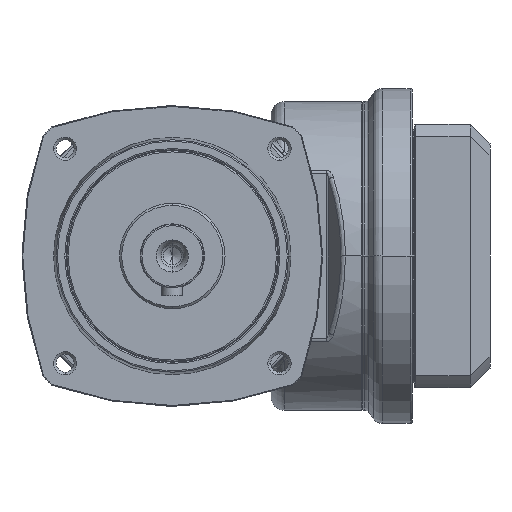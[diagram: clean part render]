
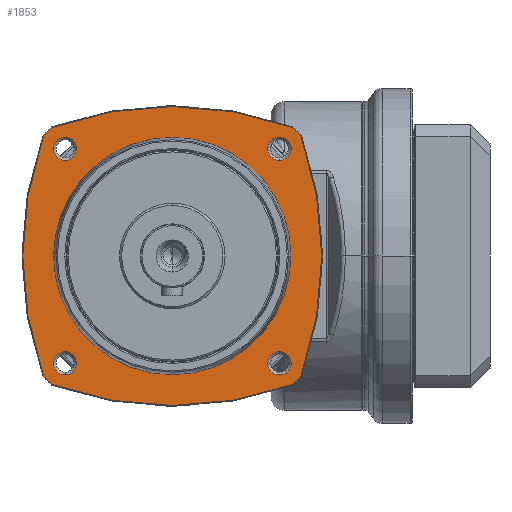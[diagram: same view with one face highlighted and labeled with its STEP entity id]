
A CAD part, left-side view. The second image highlights one B-rep face of the part: STEP entity #1853.
In plain terms, the highlighted planar face has unit normal (-1, 0, 0).
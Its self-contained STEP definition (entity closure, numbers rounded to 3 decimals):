
#332=CARTESIAN_POINT('',(16.,40.659,40.659));
#333=DIRECTION('',(1.,0.,0.));
#334=DIRECTION('',(0.,-1.,0.));
#335=AXIS2_PLACEMENT_3D('',#332,#333,#334);
#337=CARTESIAN_POINT('',(16.,40.659,40.659));
#338=DIRECTION('',(1.,0.,0.));
#339=DIRECTION('',(0.,1.,0.));
#340=AXIS2_PLACEMENT_3D('',#337,#338,#339);
#342=CARTESIAN_POINT('',(16.,40.659,-40.659));
#343=DIRECTION('',(1.,0.,0.));
#344=DIRECTION('',(0.,0.,-1.));
#345=AXIS2_PLACEMENT_3D('',#342,#343,#344);
#347=CARTESIAN_POINT('',(16.,40.659,-40.659));
#348=DIRECTION('',(1.,0.,0.));
#349=DIRECTION('',(0.,0.,1.));
#350=AXIS2_PLACEMENT_3D('',#347,#348,#349);
#352=CARTESIAN_POINT('',(16.,-40.659,-40.659));
#353=DIRECTION('',(1.,0.,0.));
#354=DIRECTION('',(0.,-1.,0.));
#355=AXIS2_PLACEMENT_3D('',#352,#353,#354);
#357=CARTESIAN_POINT('',(16.,-40.659,-40.659));
#358=DIRECTION('',(1.,0.,0.));
#359=DIRECTION('',(0.,1.,0.));
#360=AXIS2_PLACEMENT_3D('',#357,#358,#359);
#362=CARTESIAN_POINT('',(16.,-40.659,40.659));
#363=DIRECTION('',(1.,0.,0.));
#364=DIRECTION('',(0.,0.,1.));
#365=AXIS2_PLACEMENT_3D('',#362,#363,#364);
#367=CARTESIAN_POINT('',(16.,-40.659,40.659));
#368=DIRECTION('',(1.,0.,0.));
#369=DIRECTION('',(0.,0.,-1.));
#370=AXIS2_PLACEMENT_3D('',#367,#368,#369);
#372=CARTESIAN_POINT('',(16.,0.,0.));
#373=DIRECTION('',(-1.,0.,0.));
#374=DIRECTION('',(0.,1.,0.));
#375=AXIS2_PLACEMENT_3D('',#372,#373,#374);
#377=CARTESIAN_POINT('',(16.,0.,0.));
#378=DIRECTION('',(-1.,0.,0.));
#379=DIRECTION('',(0.,-1.,0.));
#380=AXIS2_PLACEMENT_3D('',#377,#378,#379);
#382=CARTESIAN_POINT('',(16.,-77.5,0.));
#383=DIRECTION('',(-1.,0.,0.));
#384=DIRECTION('',(0.,0.941,0.339));
#385=AXIS2_PLACEMENT_3D('',#382,#383,#384);
#387=CARTESIAN_POINT('',(16.,0.,0.));
#388=DIRECTION('',(-1.,0.,0.));
#389=DIRECTION('',(0.,0.683,0.731));
#390=AXIS2_PLACEMENT_3D('',#387,#388,#389);
#392=CARTESIAN_POINT('',(16.,0.,-77.5));
#393=DIRECTION('',(-1.,0.,0.));
#394=DIRECTION('',(0.,-0.339,0.941));
#395=AXIS2_PLACEMENT_3D('',#392,#393,#394);
#397=CARTESIAN_POINT('',(16.,0.,0.));
#398=DIRECTION('',(-1.,0.,0.));
#399=DIRECTION('',(0.,-0.731,0.683));
#400=AXIS2_PLACEMENT_3D('',#397,#398,#399);
#402=CARTESIAN_POINT('',(16.,77.5,0.));
#403=DIRECTION('',(-1.,0.,0.));
#404=DIRECTION('',(0.,-0.941,-0.339));
#405=AXIS2_PLACEMENT_3D('',#402,#403,#404);
#407=CARTESIAN_POINT('',(16.,0.,0.));
#408=DIRECTION('',(-1.,0.,0.));
#409=DIRECTION('',(0.,-0.683,-0.731));
#410=AXIS2_PLACEMENT_3D('',#407,#408,#409);
#412=CARTESIAN_POINT('',(16.,0.,77.5));
#413=DIRECTION('',(-1.,0.,0.));
#414=DIRECTION('',(0.,0.339,-0.941));
#415=AXIS2_PLACEMENT_3D('',#412,#413,#414);
#417=CARTESIAN_POINT('',(16.,0.,0.));
#418=DIRECTION('',(-1.,0.,0.));
#419=DIRECTION('',(0.,0.731,-0.683));
#420=AXIS2_PLACEMENT_3D('',#417,#418,#419);
#815=CARTESIAN_POINT('',(16.,-45.535,48.739));
#822=CARTESIAN_POINT('',(16.,45.535,48.739));
#843=CARTESIAN_POINT('',(16.,45.535,-48.739));
#864=CARTESIAN_POINT('',(16.,-48.739,45.535));
#1103=CARTESIAN_POINT('',(16.,36.259,40.659));
#1104=CARTESIAN_POINT('',(16.,45.059,40.659));
#1105=VERTEX_POINT('',#1103);
#1106=VERTEX_POINT('',#1104);
#1109=CARTESIAN_POINT('',(16.,40.659,-45.059));
#1110=CARTESIAN_POINT('',(16.,40.659,-36.259));
#1111=VERTEX_POINT('',#1109);
#1112=VERTEX_POINT('',#1110);
#1115=CARTESIAN_POINT('',(16.,-45.059,
-40.659));
#1116=CARTESIAN_POINT('',(16.,-36.259,
-40.659));
#1117=VERTEX_POINT('',#1115);
#1118=VERTEX_POINT('',#1116);
#1121=CARTESIAN_POINT('',(16.,-40.659,45.059));
#1122=CARTESIAN_POINT('',(16.,-40.659,36.259));
#1123=VERTEX_POINT('',#1121);
#1124=VERTEX_POINT('',#1122);
#1143=CARTESIAN_POINT('',(16.,48.738,45.535));
#1144=CARTESIAN_POINT('',(16.,48.738,-45.535));
#1145=VERTEX_POINT('',#1143);
#1146=VERTEX_POINT('',#1144);
#1152=VERTEX_POINT('',#815);
#1154=VERTEX_POINT('',#822);
#1186=VERTEX_POINT('',#864);
#1194=VERTEX_POINT('',#843);
#1199=CARTESIAN_POINT('',(16.,-48.738,-45.535));
#1200=VERTEX_POINT('',#1199);
#1201=CARTESIAN_POINT('',(16.,-45.535,-48.738));
#1202=VERTEX_POINT('',#1201);
#1213=CARTESIAN_POINT('',(16.,45.,0.));
#1214=CARTESIAN_POINT('',(16.,-45.,0.));
#1215=VERTEX_POINT('',#1213);
#1216=VERTEX_POINT('',#1214);
#1801=CARTESIAN_POINT('',(16.,0.,0.));
#1802=DIRECTION('',(-1.,0.,0.));
#1803=DIRECTION('',(0.,1.,0.));
#1804=AXIS2_PLACEMENT_3D('',#1801,#1802,#1803);
#1805=PLANE('',#1804);
#1807=ORIENTED_EDGE('',*,*,#1806,.F.);
#1809=ORIENTED_EDGE('',*,*,#1808,.F.);
#1811=ORIENTED_EDGE('',*,*,#1810,.F.);
#1813=ORIENTED_EDGE('',*,*,#1812,.F.);
#1815=ORIENTED_EDGE('',*,*,#1814,.F.);
#1817=ORIENTED_EDGE('',*,*,#1816,.F.);
#1819=ORIENTED_EDGE('',*,*,#1818,.F.);
#1821=ORIENTED_EDGE('',*,*,#1820,.F.);
#1822=EDGE_LOOP('',(#1807,#1809,#1811,#1813,#1815,#1817,#1819,#1821));
#1823=FACE_OUTER_BOUND('',#1822,.F.);
#1825=ORIENTED_EDGE('',*,*,#1824,.F.);
#1827=ORIENTED_EDGE('',*,*,#1826,.F.);
#1828=EDGE_LOOP('',(#1825,#1827));
#1829=FACE_BOUND('',#1828,.F.);
#1831=ORIENTED_EDGE('',*,*,#1830,.F.);
#1833=ORIENTED_EDGE('',*,*,#1832,.F.);
#1834=EDGE_LOOP('',(#1831,#1833));
#1835=FACE_BOUND('',#1834,.F.);
#1837=ORIENTED_EDGE('',*,*,#1836,.F.);
#1839=ORIENTED_EDGE('',*,*,#1838,.F.);
#1840=EDGE_LOOP('',(#1837,#1839));
#1841=FACE_BOUND('',#1840,.F.);
#1843=ORIENTED_EDGE('',*,*,#1842,.F.);
#1845=ORIENTED_EDGE('',*,*,#1844,.F.);
#1846=EDGE_LOOP('',(#1843,#1845));
#1847=FACE_BOUND('',#1846,.F.);
#1849=ORIENTED_EDGE('',*,*,#1848,.T.);
#1850=ORIENTED_EDGE('',*,*,#1791,.T.);
#1851=EDGE_LOOP('',(#1849,#1850));
#1852=FACE_BOUND('',#1851,.F.);
#1853=ADVANCED_FACE('',(#1823,#1829,#1835,#1841,#1847,#1852),#1805,.T.);
#336=CIRCLE('',#335,4.4);
#341=CIRCLE('',#340,4.4);
#346=CIRCLE('',#345,4.4);
#351=CIRCLE('',#350,4.4);
#356=CIRCLE('',#355,4.4);
#361=CIRCLE('',#360,4.4);
#366=CIRCLE('',#365,4.4);
#371=CIRCLE('',#370,4.4);
#376=CIRCLE('',#375,45.);
#381=CIRCLE('',#380,45.);
#386=CIRCLE('',#385,134.2);
#391=CIRCLE('',#390,66.7);
#396=CIRCLE('',#395,134.2);
#401=CIRCLE('',#400,66.7);
#406=CIRCLE('',#405,134.2);
#411=CIRCLE('',#410,66.7);
#416=CIRCLE('',#415,134.2);
#421=CIRCLE('',#420,66.7);
#1791=EDGE_CURVE('',#1216,#1215,#381,.T.);
#1806=EDGE_CURVE('',#1145,#1146,#386,.T.);
#1808=EDGE_CURVE('',#1154,#1145,#391,.T.);
#1810=EDGE_CURVE('',#1152,#1154,#396,.T.);
#1812=EDGE_CURVE('',#1186,#1152,#401,.T.);
#1814=EDGE_CURVE('',#1200,#1186,#406,.T.);
#1816=EDGE_CURVE('',#1202,#1200,#411,.T.);
#1818=EDGE_CURVE('',#1194,#1202,#416,.T.);
#1820=EDGE_CURVE('',#1146,#1194,#421,.T.);
#1824=EDGE_CURVE('',#1105,#1106,#336,.T.);
#1826=EDGE_CURVE('',#1106,#1105,#341,.T.);
#1830=EDGE_CURVE('',#1111,#1112,#346,.T.);
#1832=EDGE_CURVE('',#1112,#1111,#351,.T.);
#1836=EDGE_CURVE('',#1117,#1118,#356,.T.);
#1838=EDGE_CURVE('',#1118,#1117,#361,.T.);
#1842=EDGE_CURVE('',#1123,#1124,#366,.T.);
#1844=EDGE_CURVE('',#1124,#1123,#371,.T.);
#1848=EDGE_CURVE('',#1215,#1216,#376,.T.);
